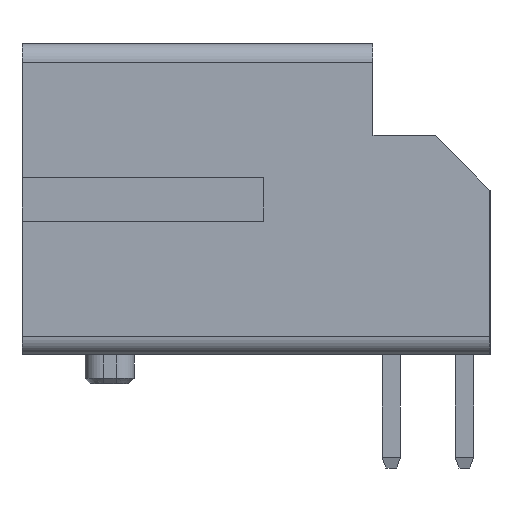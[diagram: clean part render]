
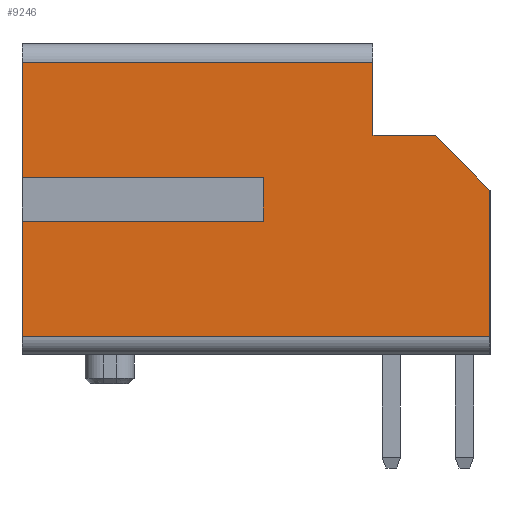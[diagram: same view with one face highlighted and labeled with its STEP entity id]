
A CAD part, left-side view. The second image highlights one B-rep face of the part: STEP entity #9246.
In plain terms, the highlighted planar face has unit normal (-1, 0, 0).
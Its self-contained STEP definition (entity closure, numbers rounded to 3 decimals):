
#17=DIRECTION('',(0.,0.,1.));
#18=VECTOR('',#17,2.);
#19=CARTESIAN_POINT('',(-9.,0.,1.75));
#20=LINE('',#19,#18);
#351=DIRECTION('',(0.,-1.,0.));
#352=VECTOR('',#351,12.8);
#353=CARTESIAN_POINT('',(-9.,9.6,-3.75));
#354=LINE('',#353,#352);
#359=DIRECTION('',(0.,-1.,0.));
#360=VECTOR('',#359,6.6);
#361=CARTESIAN_POINT('',(-9.,9.6,-0.6));
#362=LINE('',#361,#360);
#363=DIRECTION('',(0.,0.,-1.));
#364=VECTOR('',#363,1.2);
#365=CARTESIAN_POINT('',(-9.,3.,0.6));
#366=LINE('',#365,#364);
#367=DIRECTION('',(0.,-1.,0.));
#368=VECTOR('',#367,6.6);
#369=CARTESIAN_POINT('',(-9.,9.6,0.6));
#370=LINE('',#369,#368);
#371=DIRECTION('',(0.,-1.,0.));
#372=VECTOR('',#371,9.6);
#373=CARTESIAN_POINT('',(-9.,9.6,3.75));
#374=LINE('',#373,#372);
#375=DIRECTION('',(0.,1.,0.));
#376=VECTOR('',#375,1.7);
#377=CARTESIAN_POINT('',(-9.,-1.7,1.75));
#378=LINE('',#377,#376);
#379=DIRECTION('',(0.,0.707,0.707));
#380=VECTOR('',#379,2.121);
#381=CARTESIAN_POINT('',(-9.,-3.2,0.25));
#382=LINE('',#381,#380);
#383=DIRECTION('',(0.,0.,1.));
#384=VECTOR('',#383,4.);
#385=CARTESIAN_POINT('',(-9.,-3.2,-3.75));
#386=LINE('',#385,#384);
#472=DIRECTION('',(0.,0.,1.));
#473=VECTOR('',#472,3.15);
#474=CARTESIAN_POINT('',(-9.,9.6,0.6));
#475=LINE('',#474,#473);
#488=DIRECTION('',(0.,0.,1.));
#489=VECTOR('',#488,3.15);
#490=CARTESIAN_POINT('',(-9.,9.6,-3.75));
#491=LINE('',#490,#489);
#6818=CARTESIAN_POINT('',(-9.,0.,3.75));
#6820=VERTEX_POINT('',#6818);
#6821=CARTESIAN_POINT('',(-9.,9.6,3.75));
#6822=VERTEX_POINT('',#6821);
#6826=CARTESIAN_POINT('',(-9.,9.6,-3.75));
#6828=VERTEX_POINT('',#6826);
#6857=CARTESIAN_POINT('',(-9.,9.6,0.6));
#6859=VERTEX_POINT('',#6857);
#6863=CARTESIAN_POINT('',(-9.,9.6,-0.6));
#6864=VERTEX_POINT('',#6863);
#6865=CARTESIAN_POINT('',(-9.,3.,0.6));
#6866=CARTESIAN_POINT('',(-9.,3.,-0.6));
#6867=VERTEX_POINT('',#6865);
#6868=VERTEX_POINT('',#6866);
#7341=CARTESIAN_POINT('',(-9.,-3.2,0.25));
#7342=CARTESIAN_POINT('',(-9.,-1.7,1.75));
#7343=VERTEX_POINT('',#7341);
#7344=VERTEX_POINT('',#7342);
#7355=CARTESIAN_POINT('',(-9.,0.,1.75));
#7356=VERTEX_POINT('',#7355);
#7373=CARTESIAN_POINT('',(-9.,-3.2,-3.75));
#7375=VERTEX_POINT('',#7373);
#9219=CARTESIAN_POINT('',(-9.,0.,-4.25));
#9220=DIRECTION('',(-1.,0.,0.));
#9221=DIRECTION('',(0.,0.,1.));
#9222=AXIS2_PLACEMENT_3D('',#9219,#9220,#9221);
#9223=PLANE('',#9222);
#9224=ORIENTED_EDGE('',*,*,#9209,.F.);
#9226=ORIENTED_EDGE('',*,*,#9225,.T.);
#9228=ORIENTED_EDGE('',*,*,#9227,.T.);
#9230=ORIENTED_EDGE('',*,*,#9229,.F.);
#9232=ORIENTED_EDGE('',*,*,#9231,.F.);
#9234=ORIENTED_EDGE('',*,*,#9233,.T.);
#9236=ORIENTED_EDGE('',*,*,#9235,.T.);
#9237=ORIENTED_EDGE('',*,*,#8970,.F.);
#9239=ORIENTED_EDGE('',*,*,#9238,.F.);
#9241=ORIENTED_EDGE('',*,*,#9240,.F.);
#9243=ORIENTED_EDGE('',*,*,#9242,.F.);
#9244=EDGE_LOOP('',(#9224,#9226,#9228,#9230,#9232,#9234,#9236,#9237,#9239,#9241,
#9243));
#9245=FACE_OUTER_BOUND('',#9244,.F.);
#8970=EDGE_CURVE('',#7356,#6820,#20,.T.);
#9209=EDGE_CURVE('',#6828,#7375,#354,.T.);
#9225=EDGE_CURVE('',#6828,#6864,#491,.T.);
#9227=EDGE_CURVE('',#6864,#6868,#362,.T.);
#9229=EDGE_CURVE('',#6867,#6868,#366,.T.);
#9231=EDGE_CURVE('',#6859,#6867,#370,.T.);
#9233=EDGE_CURVE('',#6859,#6822,#475,.T.);
#9235=EDGE_CURVE('',#6822,#6820,#374,.T.);
#9238=EDGE_CURVE('',#7344,#7356,#378,.T.);
#9240=EDGE_CURVE('',#7343,#7344,#382,.T.);
#9242=EDGE_CURVE('',#7375,#7343,#386,.T.);
#9246=ADVANCED_FACE('',(#9245),#9223,.T.);
